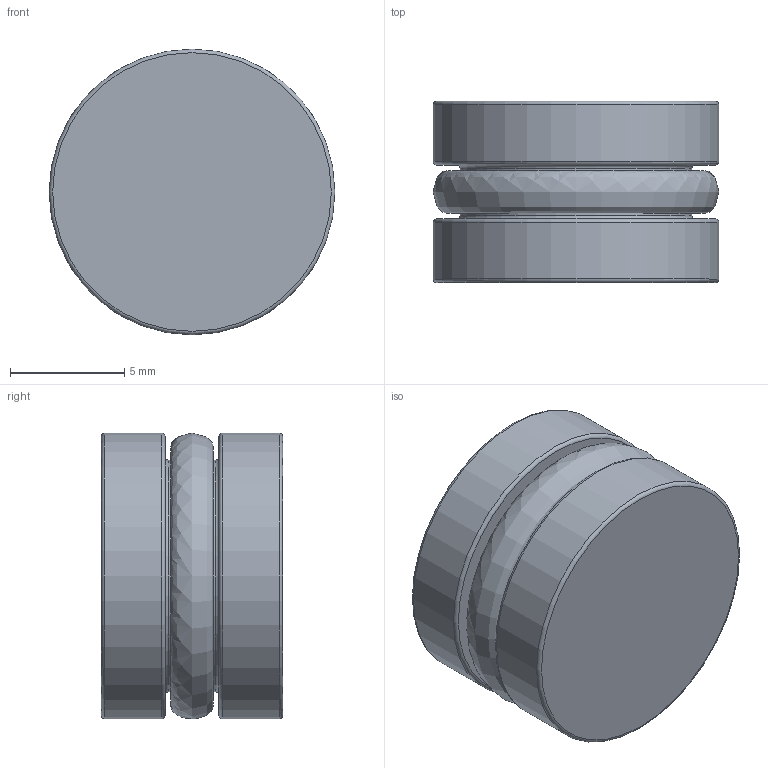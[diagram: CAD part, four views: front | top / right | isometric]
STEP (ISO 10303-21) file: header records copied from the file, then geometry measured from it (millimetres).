
FILE_DESCRIPTION(/* description */ (''),/* implementation_level */ '2;1');
FILE_NAME(/* name */ 'C:/Users/drich/Desktop/OR-500 v1.step',/* time_stamp */ '2019-12-29T16:46:09-06:00',/* author */ (''),/* organization */ (''),/* preprocessor_version */ 'ST-DEVELOPER v18',/* originating_system */ 'Autodesk Translation Framework v8.12.0.6',/* authorisation */ '');
FILE_SCHEMA (('AUTOMOTIVE_DESIGN { 1 0 10303 214 3 1 1 }'));
Length unit declared in the file: inch
Products named in the file (1): OR-500
Bounding box: 12.5 x 7.92 x 12.5 mm (x, y, z)
Volume: 878 mm3; surface area: 828.7 mm2
Topology: 2 solids, 2 shells, 17 faces, 43 edges, 30 vertices
Faces by surface type: torus 6, cylinder 4, plane 4, cone 2, bspline 1
Full cylindrical faces by diameter (mm): 4.064 x1, 10.135 x1, 12.497 x2
Entity records: 661 total; most frequent: CARTESIAN_POINT 170, DIRECTION 112, ORIENTED_EDGE 84, AXIS2_PLACEMENT_3D 53, EDGE_CURVE 42, CIRCLE 35, VERTEX_POINT 30, EDGE_LOOP 20
